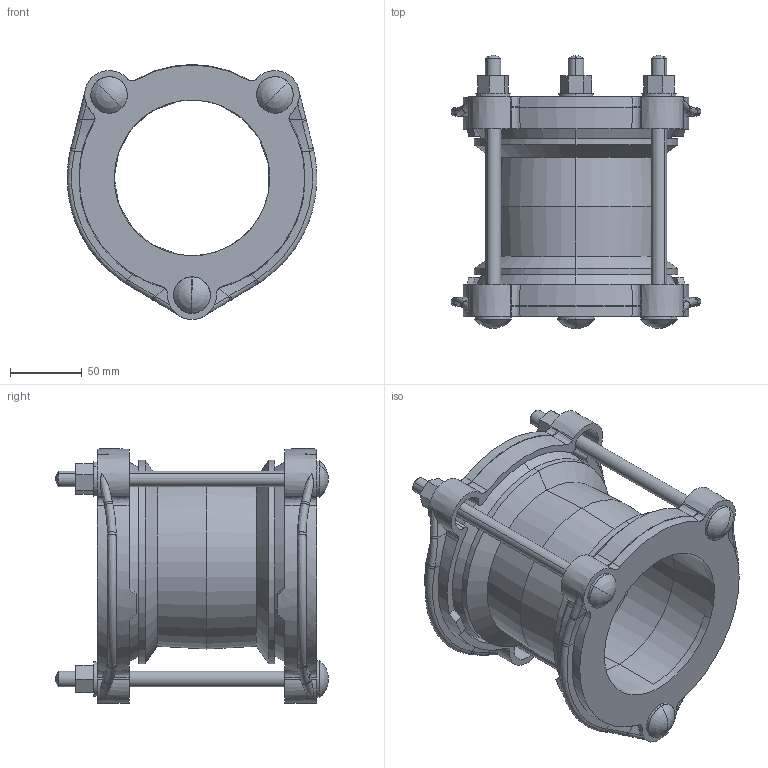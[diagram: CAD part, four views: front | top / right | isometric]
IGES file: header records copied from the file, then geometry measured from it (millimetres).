
Start section:  PTC IGES file: maxifit_85-107_alt.igs
Global section: file name: maxifit_85-107_alt.igs; native system: Creo Parametric by PTC Inc.; preprocessor: 2016130; author: MReader; organization: Unknown; date: 20180918.094908; units: millimetre
Bounding box: 173.97 x 190.33 x 177.77 mm (x, y, z)
Surface area: 241244.6 mm2 (no closed solid volume)
Topology: 0 solids, 0 shells, 370 faces, 1956 edges, 1944 vertices
Faces by surface type: revolution 194, bspline 176
